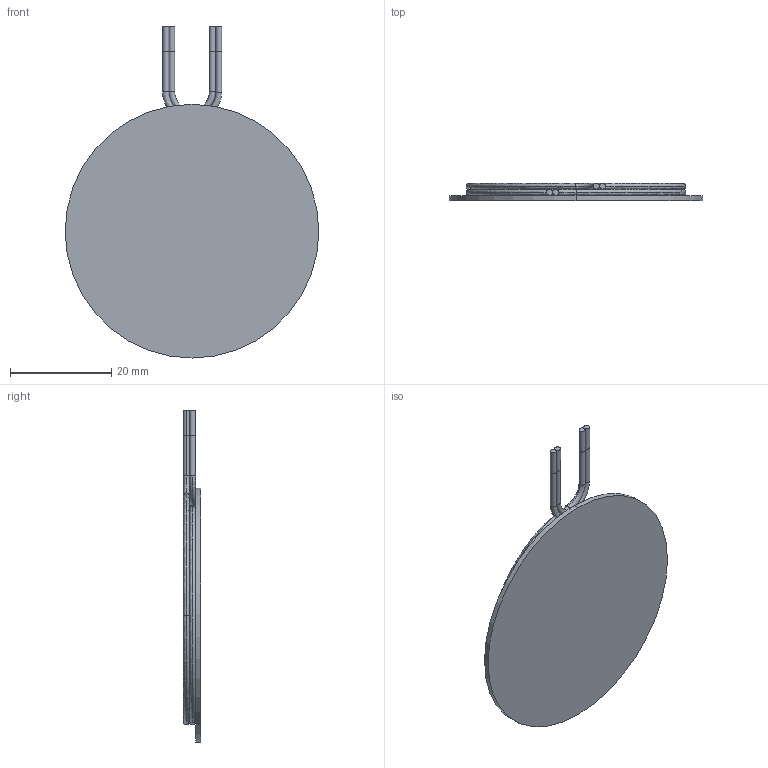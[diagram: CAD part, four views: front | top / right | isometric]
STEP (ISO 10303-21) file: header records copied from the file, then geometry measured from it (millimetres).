
FILE_DESCRIPTION (( 'STEP AP214' ), '1' );
FILE_NAME ('SCT50036R3KA11D FULL ASSEMBLY.STEP', '2024-04-23T03:23:58', ( '' ), ( '' ), 'SwSTEP 2.0', 'SolidWorks 2022', '' );
FILE_SCHEMA (( 'AUTOMOTIVE_DESIGN' ));
Length unit declared in the file: millimetre
Products named in the file (3): SCT50036R3KA11D FULL ASSEMBLY; SCT50036R3KA11D COIL; SCT50036R3KA11D FERRITE
Assembly tree (2 placements, depth 2):
  SCT50036R3KA11D FULL ASSEMBLY
    SCT50036R3KA11D FERRITE
    SCT50036R3KA11D COIL
Bounding box: 50 x 3.4 x 65.45 mm (x, y, z)
Volume: 4272.1 mm3; surface area: 11754 mm2
Topology: 2 solids, 2 shells, 126 faces, 422 edges, 262 vertices
Faces by surface type: bspline 76, cylinder 21, torus 15, plane 14
Entity records: 17767 total; most frequent: CARTESIAN_POINT 14130, ORIENTED_EDGE 844, EDGE_CURVE 422, DIRECTION 355, B_SPLINE_CURVE_WITH_KNOTS 279, VERTEX_POINT 262, AXIS2_PLACEMENT_3D 163, EDGE_LOOP 126
